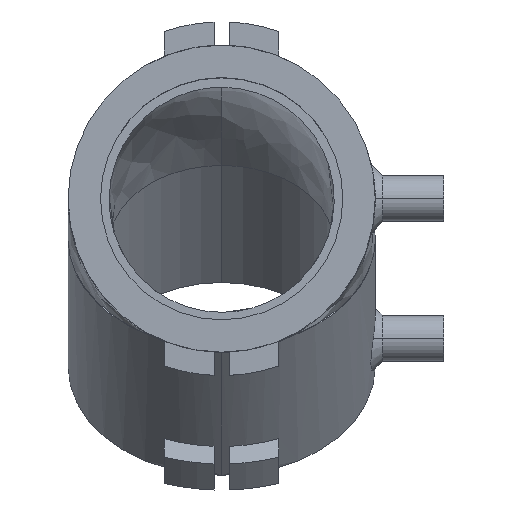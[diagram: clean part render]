
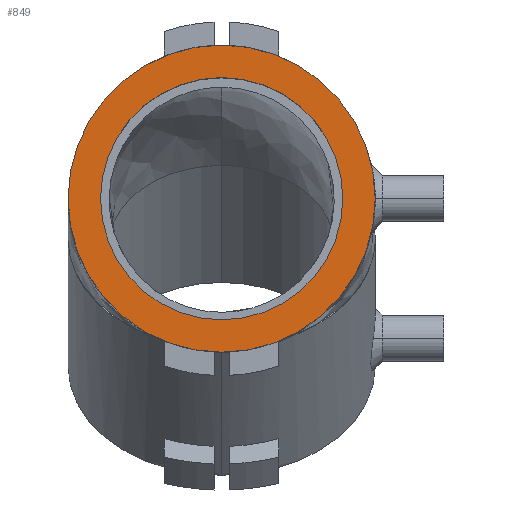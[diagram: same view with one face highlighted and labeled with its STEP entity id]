
A CAD part, top view. The second image highlights one B-rep face of the part: STEP entity #849.
In plain terms, the highlighted planar face has unit normal (0, 0, 1).
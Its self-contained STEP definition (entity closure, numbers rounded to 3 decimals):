
#525 = CARTESIAN_POINT ( 'NONE',  ( 0., 0., 62.5 ) ) ;
#531 = FACE_OUTER_BOUND ( 'NONE', #3042, .T. ) ;
#534 = FACE_BOUND ( 'NONE', #3046, .T. ) ;
#536 = PLANE ( 'NONE',  #2466 ) ;
#540 = DIRECTION ( 'NONE',  ( 0., 0., 1. ) ) ;
#542 = DIRECTION ( 'NONE',  ( 1., 0., 0. ) ) ;
#849 = ADVANCED_FACE ( 'NONE', ( #531, #534 ), #536, .T. ) ;
#1071 = CARTESIAN_POINT ( 'NONE',  ( 0., 0., 62.5 ) ) ;
#1072 = DIRECTION ( 'NONE',  ( 0., 0., -1. ) ) ;
#1073 = DIRECTION ( 'NONE',  ( 1., 0., 0. ) ) ;
#1219 = EDGE_CURVE ( 'NONE', #3178, #3228, #2173, .T. ) ;
#1245 = EDGE_CURVE ( 'NONE', #3212, #3216, #2143, .T. ) ;
#1351 = EDGE_CURVE ( 'NONE', #3216, #3212, #2383, .T. ) ;
#1387 = EDGE_CURVE ( 'NONE', #3228, #3178, #2338, .T. ) ;
#1425 = CARTESIAN_POINT ( 'NONE',  ( 31.75, 0., 62.5 ) ) ;
#1461 = CARTESIAN_POINT ( 'NONE',  ( -40.25, 0., 62.5 ) ) ;
#1465 = CARTESIAN_POINT ( 'NONE',  ( 40.25, 0., 62.5 ) ) ;
#1477 = CARTESIAN_POINT ( 'NONE',  ( -31.75, 0., 62.5 ) ) ;
#2028 = ORIENTED_EDGE ( 'NONE', *, *, #1351, .F. ) ;
#2029 = ORIENTED_EDGE ( 'NONE', *, *, #1245, .F. ) ;
#2030 = ORIENTED_EDGE ( 'NONE', *, *, #1387, .T. ) ;
#2031 = ORIENTED_EDGE ( 'NONE', *, *, #1219, .T. ) ;
#2141 = AXIS2_PLACEMENT_3D ( 'NONE', #1071, #1072, #1073 ) ;
#2143 = CIRCLE ( 'NONE', #2141, 40.25 ) ;
#2173 = CIRCLE ( 'NONE', #2175, 31.75 ) ;
#2175 = AXIS2_PLACEMENT_3D ( 'NONE', #2592, #2594, #2595 ) ;
#2336 = AXIS2_PLACEMENT_3D ( 'NONE', #3578, #3579, #3580 ) ;
#2338 = CIRCLE ( 'NONE', #2336, 31.75 ) ;
#2382 = AXIS2_PLACEMENT_3D ( 'NONE', #3446, #3447, #3448 ) ;
#2383 = CIRCLE ( 'NONE', #2382, 40.25 ) ;
#2466 = AXIS2_PLACEMENT_3D ( 'NONE', #525, #540, #542 ) ;
#2592 = CARTESIAN_POINT ( 'NONE',  ( 0., 0., 62.5 ) ) ;
#2594 = DIRECTION ( 'NONE',  ( 0., 0., -1. ) ) ;
#2595 = DIRECTION ( 'NONE',  ( -1., 0., 0. ) ) ;
#3042 = EDGE_LOOP ( 'NONE', ( #2028, #2029 ) ) ;
#3046 = EDGE_LOOP ( 'NONE', ( #2030, #2031 ) ) ;
#3178 = VERTEX_POINT ( 'NONE', #1425 ) ;
#3212 = VERTEX_POINT ( 'NONE', #1461 ) ;
#3216 = VERTEX_POINT ( 'NONE', #1465 ) ;
#3228 = VERTEX_POINT ( 'NONE', #1477 ) ;
#3446 = CARTESIAN_POINT ( 'NONE',  ( 0., 0., 62.5 ) ) ;
#3447 = DIRECTION ( 'NONE',  ( 0., 0., -1. ) ) ;
#3448 = DIRECTION ( 'NONE',  ( 1., 0., 0. ) ) ;
#3578 = CARTESIAN_POINT ( 'NONE',  ( 0., 0., 62.5 ) ) ;
#3579 = DIRECTION ( 'NONE',  ( 0., 0., -1. ) ) ;
#3580 = DIRECTION ( 'NONE',  ( -1., 0., 0. ) ) ;
